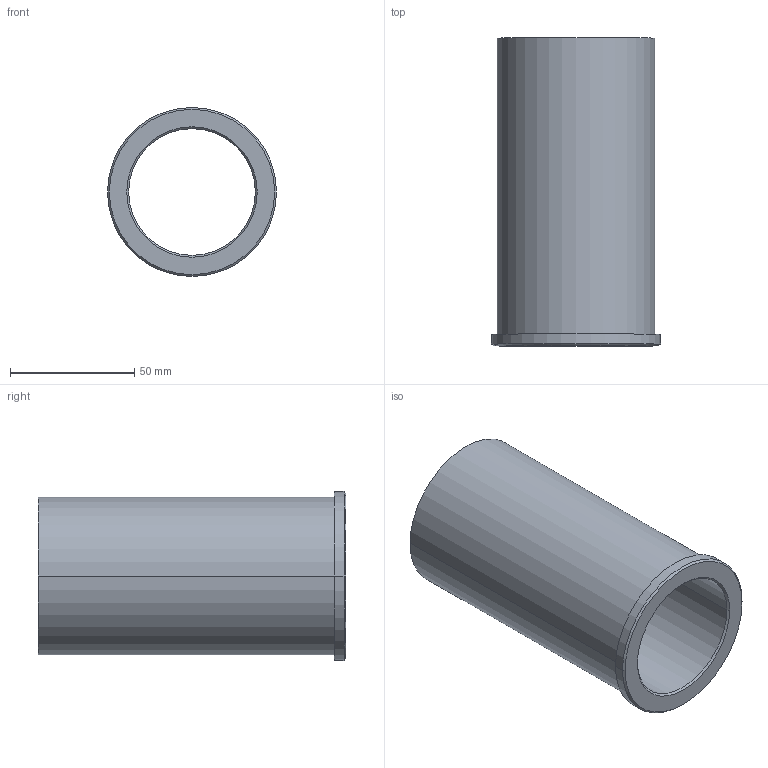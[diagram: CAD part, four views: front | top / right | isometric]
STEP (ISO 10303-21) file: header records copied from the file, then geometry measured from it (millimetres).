
FILE_DESCRIPTION (( 'STEP AP203' ), '1' );
FILE_NAME ('LBB 16-47.step', '2014-09-14T01:20:07', ( '' ), ( '' ), 'SwSTEP 2.0', 'SolidWorks 2009', '' );
FILE_SCHEMA (( 'CONFIG_CONTROL_DESIGN' ));
Length unit declared in the file: inch
Products named in the file (1): LBB 16-47
Bounding box: 68 x 123.83 x 68 mm (x, y, z)
Volume: 142088.3 mm3; surface area: 47503.1 mm2
Topology: 1 solids, 1 shells, 15 faces, 30 edges, 18 vertices
Faces by surface type: cylinder 6, cone 4, plane 3, torus 2
Entity records: 479 total; most frequent: DIRECTION 82, CARTESIAN_POINT 64, ORIENTED_EDGE 60, AXIS2_PLACEMENT_3D 36, EDGE_CURVE 30, CIRCLE 20, EDGE_LOOP 18, VERTEX_POINT 18
